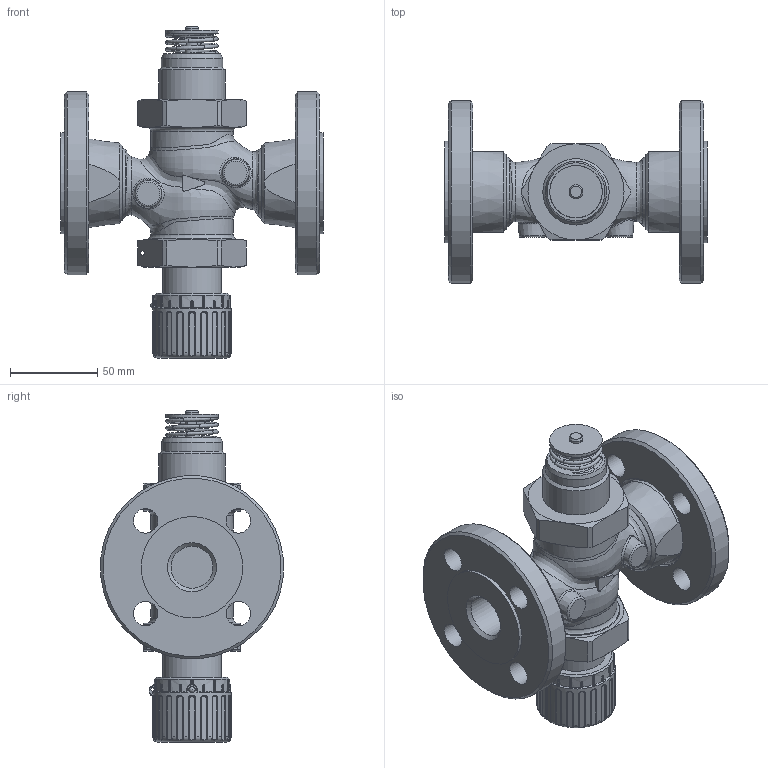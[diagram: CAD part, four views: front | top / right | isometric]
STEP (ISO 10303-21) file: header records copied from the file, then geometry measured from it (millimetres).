
FILE_DESCRIPTION(/* description */ (''),/* implementation_level */ '2;1');
FILE_NAME(/* name */ 'rv122p_dn20_F.stp',/* time_stamp */ '2012-11-05T15:46:32+01:00',/* author */ ('JENIK'),/* organization */ ('LDM'),/* preprocessor_version */ 'ST-DEVELOPER v11',/* originating_system */ 'SIEMENS PLM Software NX 7.0',/* authorisation */ '');
FILE_SCHEMA (('CONFIG_CONTROL_DESIGN'));
Length unit declared in the file: millimetre
Products named in the file (1): jeniA85B0dtp
Bounding box: 150 x 104.6 x 190 mm (x, y, z)
Volume: 251483.9 mm3; surface area: 103299.1 mm2
Topology: 2 solids, 3 shells, 600 faces, 1485 edges, 913 vertices
Faces by surface type: cylinder 214, plane 149, bspline 103, torus 72, cone 61, sphere 1
Full cylindrical faces by diameter (mm): 2 x1, 2.5 x1, 8 x2, 14 x8, 24 x2, 24.5 x1, 30 x1, 33.8 x1, 35 x1, 37 x1, 38 x1, 38.952 x2, 41.91 x2, 42 x2, 43 x1, 47 x2, 58 x2, 105 x2
Entity records: 28050 total; most frequent: CARTESIAN_POINT 15308, ORIENTED_EDGE 2670, DIRECTION 2444, EDGE_CURVE 1335, AXIS2_PLACEMENT_3D 1032, VERTEX_POINT 861, EDGE_LOOP 746, ADVANCED_FACE 600
